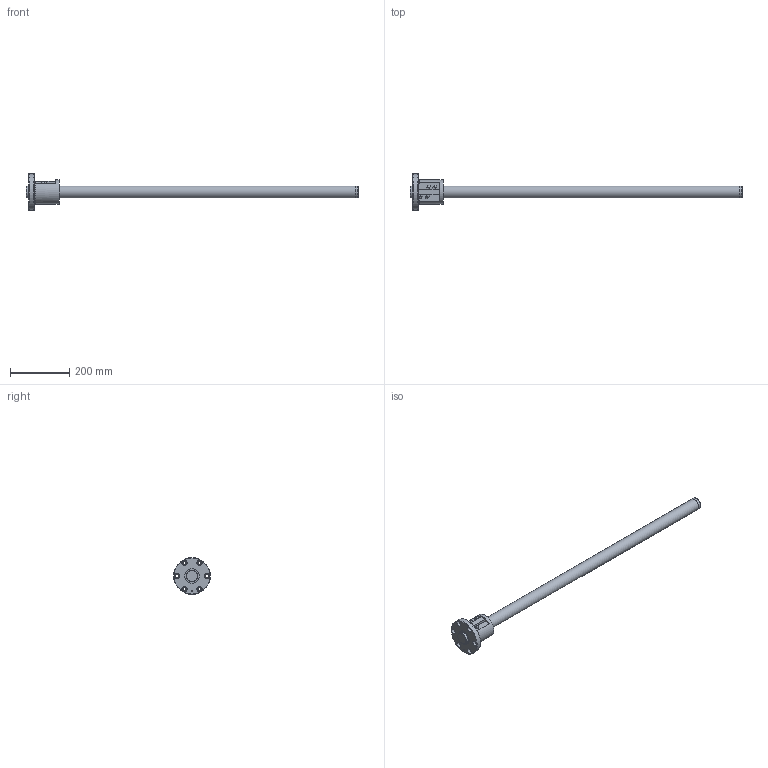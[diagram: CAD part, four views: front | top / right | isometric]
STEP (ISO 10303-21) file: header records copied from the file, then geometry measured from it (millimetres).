
FILE_DESCRIPTION( ( 'STEP AP203' ), ' ' );
FILE_NAME( 'p:/temp/worker_50/3228_2824/app_88_12018011812123507544113818fa3fd_000000_00_00_000000/format_0/BIF4010-5RRG0+1123LC0_10000.stp', '2018-01-18T11:12:36', ( '' ), ( '' ), ' ', 'PARTsolutions', ' ' );
FILE_SCHEMA( ( 'CONFIG_CONTROL_DESIGN' ) );
Length unit declared in the file: millimetre
Products named in the file (3): BIF4010-5RRG0+1123LC0_10000; _BIF 4010-5RR1000500 Shaft; _BIF 4010-5RR Nut
Assembly tree (2 placements, depth 2):
  BIF4010-5RRG0+1123LC0_10000
    _BIF 4010-5RR1000500 Shaft
    _BIF 4010-5RR Nut
Bounding box: 1123 x 124 x 124 mm (x, y, z)
Volume: 1891099.4 mm3; surface area: 215065.8 mm2
Topology: 2 solids, 2 shells, 82 faces, 178 edges, 113 vertices
Faces by surface type: cylinder 39, plane 31, cone 8, torus 4
Full cylindrical faces by diameter (mm): 4.917 x1, 6.2 x2, 7.8 x4, 11 x6, 17.5 x6, 39.5 x2, 40 x4, 49.2 x2, 82 x1, 124 x1
Entity records: 2558 total; most frequent: CARTESIAN_POINT 767, DIRECTION 376, ORIENTED_EDGE 262, AXIS2_PLACEMENT_3D 172, EDGE_LOOP 156, EDGE_CURVE 131, FACE_OUTER_BOUND 111, VERTEX_POINT 103
